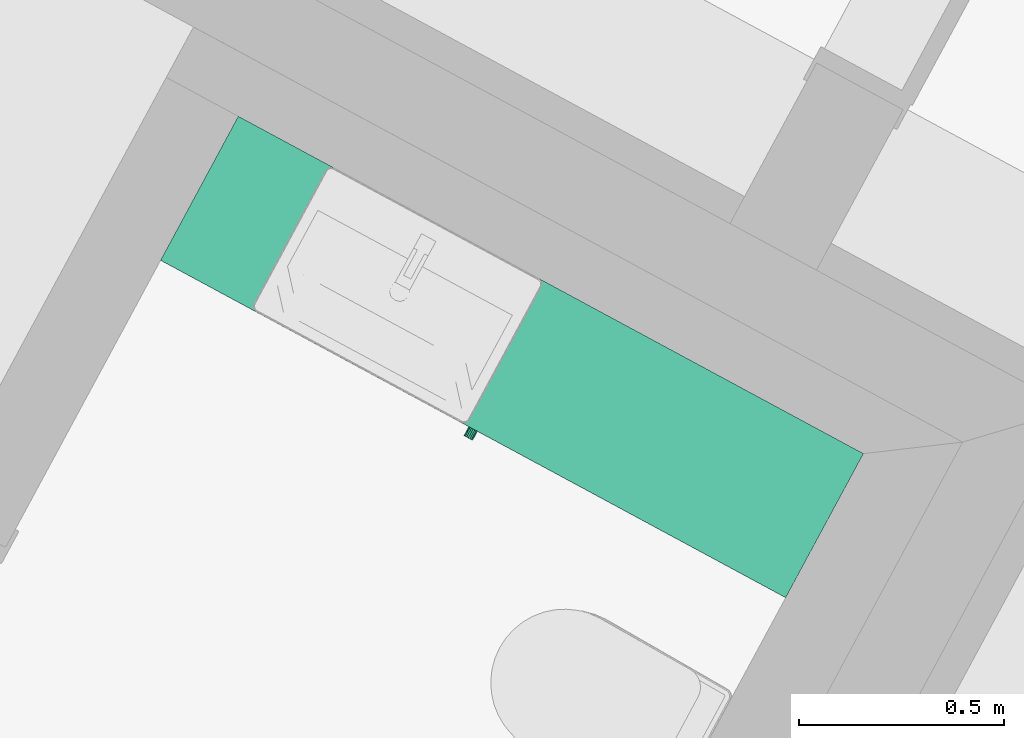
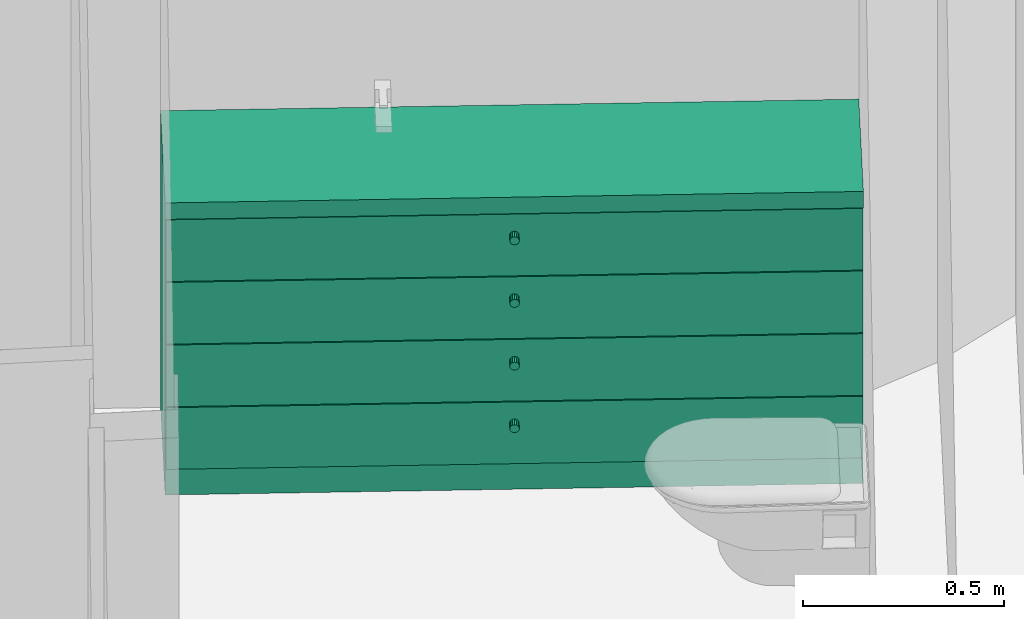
# One storey, part 16 of 36: 1 flow terminal.
"""IFC2X3 building model written with IfcOpenShell, lengths in metres."""

from ifc_helpers import new_model, entity, si_unit, converted_unit, derived_unit, money_unit, direction, frame, origin_with_axes, place, context, subcontext, project, spatial, faceted_brep, type_object, element, save


model = new_model("IFC2X3")

# Units and contexts
model_context = context("Model", 3, precision=1e-05, world=origin_with_axes(), true_north=direction((0.0, 1.0)))
body_context = subcontext(model_context, "Body", "Model", "MODEL_VIEW")
ifc_project = project(units=[si_unit("LENGTHUNIT", "METRE"), si_unit("AREAUNIT", "SQUARE_METRE"), si_unit("VOLUMEUNIT", "CUBIC_METRE"), converted_unit("PLANEANGLEUNIT", "DEGREE", entity("IfcPlaneAngleMeasure", 0.0174532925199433), si_unit("PLANEANGLEUNIT", "RADIAN"), dimensions=[0, 0, 0, 0, 0, 0, 0]), money_unit("EUR"), converted_unit("TIMEUNIT", "Year", entity("IfcTimeMeasure", 31556926.0), si_unit("TIMEUNIT", "SECOND"), dimensions=[0, 0, 1, 0, 0, 0, 0]), si_unit("MASSUNIT", "GRAM", prefix="KILO"), si_unit("THERMODYNAMICTEMPERATUREUNIT", "DEGREE_CELSIUS"), si_unit("LUMINOUSINTENSITYUNIT", "LUMEN"), si_unit("ENERGYUNIT", "JOULE", prefix="MEGA"), derived_unit("THERMALCONDUCTANCEUNIT", [(si_unit("POWERUNIT", "WATT"), 1), (si_unit("LENGTHUNIT", "METRE"), -1), (si_unit("THERMODYNAMICTEMPERATUREUNIT", "KELVIN"), -1)]), derived_unit("SPECIFICHEATCAPACITYUNIT", [(si_unit("ENERGYUNIT", "JOULE"), 1), (si_unit("MASSUNIT", "GRAM", prefix="KILO"), -1), (si_unit("THERMODYNAMICTEMPERATUREUNIT", "KELVIN"), -1)]), derived_unit("MASSDENSITYUNIT", [(si_unit("MASSUNIT", "GRAM", prefix="KILO"), 1), (si_unit("VOLUMEUNIT", "CUBIC_METRE"), -1)])], contexts=[model_context])

# Site, building, storey
site_placement = place(None, frame((-3.949935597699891, 1.740105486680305, 0.0), z_axis=(0.0, 0.0, 1.0), x_axis=(0.8799804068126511, -0.475009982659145, 0.0)))
site = spatial("IfcSite", under=ifc_project, at=site_placement, Name="Gelände", CompositionType="ELEMENT")
building_placement = place(site_placement, origin_with_axes())
building = spatial("IfcBuilding", under=site, at=building_placement, Name="Gebäude", CompositionType="ELEMENT")
storey_placement = place(building_placement, origin_with_axes())
storey = spatial("IfcBuildingStorey", under=building, at=storey_placement, Name="Erdgeschoss", CompositionType="ELEMENT", Elevation=0.0)

# Flow terminal
sanitary_terminal_type = type_object("IfcSanitaryTerminalType", Name="Unterschrank Mehrfach-Schublade 22", PredefinedType="NOTDEFINED")
flow_terminal_placement = place(storey_placement, frame((17.72153792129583, 6.188053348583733, 0.0), z_axis=(0.0, 0.0, 1.0), x_axis=(0.9999999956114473, 9.368620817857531e-05, 0.0)))
element("IfcFlowTerminal", 1, at=flow_terminal_placement, inside=storey, type_object=sanitary_terminal_type, Name="Objekt-0079", context=body_context, shape_type="Brep", body=[
    faceted_brep([(-0.001500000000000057, 0.01999999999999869, 0.0915), (-0.001500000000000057, 0.0, 0.0915), (-1.734509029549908, 0.0, 0.0915), (-1.734509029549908, 0.01999999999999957, 0.0915), (-0.001500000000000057, 0.01999999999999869, 0.2785), (-0.001500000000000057, 0.0, 0.2785), (-1.734509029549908, 0.0, 0.2785), (-1.734509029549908, 0.01999999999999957, 0.2785)], [[[0, 1, 2, 3]], [[4, 5, 1, 0]], [[1, 5, 6, 2]], [[3, 2, 6, 7]], [[0, 3, 7, 4]], [[7, 6, 5, 4]]]),
    faceted_brep([(-0.8634123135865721, 0.0, 0.2039134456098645), (-0.868004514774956, 0.0, 0.203), (-0.8725967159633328, 0.0, 0.2039134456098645), (-0.8764897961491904, 0.0, 0.2065147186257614), (-0.8790910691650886, 0.0, 0.2104077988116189), (-0.8800045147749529, 0.0, 0.215), (-0.8790910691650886, 0.0, 0.2195922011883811), (-0.8764897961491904, 0.0, 0.2234852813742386), (-0.8725967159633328, 0.0, 0.2260865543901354), (-0.868004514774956, 0.0, 0.227), (-0.8634123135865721, 0.0, 0.2260865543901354), (-0.8595192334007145, 0.0, 0.2234852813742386), (-0.8569179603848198, 0.0, 0.2195922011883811), (-0.856004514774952, 0.0, 0.215), (-0.8569179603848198, 0.0, 0.2104077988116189), (-0.8595192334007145, 0.0, 0.2065147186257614), (-0.8634123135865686, -0.02500000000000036, 0.2039134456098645), (-0.8680045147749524, -0.02500000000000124, 0.203), (-0.8725967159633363, -0.02500000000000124, 0.2039134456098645), (-0.876489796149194, -0.02500000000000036, 0.2065147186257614), (-0.8790910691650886, -0.02500000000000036, 0.2104077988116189), (-0.8800045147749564, -0.02500000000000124, 0.215), (-0.8790910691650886, -0.02500000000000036, 0.2195922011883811), (-0.876489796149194, -0.02500000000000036, 0.2234852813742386), (-0.8725967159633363, -0.02500000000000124, 0.2260865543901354), (-0.8680045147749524, -0.02500000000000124, 0.227), (-0.8634123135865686, -0.02500000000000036, 0.2260865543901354), (-0.8595192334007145, -0.02500000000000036, 0.2234852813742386), (-0.8569179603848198, -0.02500000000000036, 0.2195922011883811), (-0.856004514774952, -0.02500000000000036, 0.215), (-0.8569179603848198, -0.02500000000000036, 0.2104077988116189), (-0.8595192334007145, -0.02500000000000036, 0.2065147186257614)], [[[0, 1, 2, 3, 4, 5, 6, 7, 8, 9, 10, 11, 12, 13, 14, 15]], [[0, 16, 17, 1]], [[1, 17, 18, 2]], [[2, 18, 19, 3]], [[3, 19, 20, 4]], [[4, 20, 21, 5]], [[5, 21, 22, 6]], [[6, 22, 23, 7]], [[7, 23, 24, 8]], [[8, 24, 25, 9]], [[9, 25, 26, 10]], [[10, 26, 27, 11]], [[11, 27, 28, 12]], [[12, 28, 29, 13]], [[13, 29, 30, 14]], [[14, 30, 31, 15]], [[15, 31, 16, 0]], [[16, 31, 30, 29, 28, 27, 26, 25, 24, 23, 22, 21, 20, 19, 18, 17]]]),
    faceted_brep([(-0.001500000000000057, 0.01999999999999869, 0.2815), (-0.001500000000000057, 0.0, 0.2815), (-1.734509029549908, 0.0, 0.2815), (-1.734509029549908, 0.01999999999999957, 0.2815), (-0.001500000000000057, 0.01999999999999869, 0.4685), (-0.001500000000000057, 0.0, 0.4685), (-1.734509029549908, 0.0, 0.4685), (-1.734509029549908, 0.01999999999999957, 0.4685)], [[[0, 1, 2, 3]], [[4, 5, 1, 0]], [[1, 5, 6, 2]], [[3, 2, 6, 7]], [[0, 3, 7, 4]], [[7, 6, 5, 4]]]),
    faceted_brep([(-0.8634123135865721, 0.0, 0.3939134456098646), (-0.868004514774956, 0.0, 0.393), (-0.8725967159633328, 0.0, 0.3939134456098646), (-0.8764897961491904, 0.0, 0.3965147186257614), (-0.8790910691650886, 0.0, 0.400407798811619), (-0.8800045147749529, 0.0, 0.405), (-0.8790910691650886, 0.0, 0.4095922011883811), (-0.8764897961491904, 0.0, 0.4134852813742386), (-0.8725967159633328, 0.0, 0.4160865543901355), (-0.868004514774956, 0.0, 0.417), (-0.8634123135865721, 0.0, 0.4160865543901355), (-0.8595192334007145, 0.0, 0.4134852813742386), (-0.8569179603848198, 0.0, 0.4095922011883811), (-0.856004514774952, 0.0, 0.405), (-0.8569179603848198, 0.0, 0.4004077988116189), (-0.8595192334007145, 0.0, 0.3965147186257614), (-0.8634123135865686, -0.02500000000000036, 0.3939134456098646), (-0.8680045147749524, -0.02500000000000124, 0.393), (-0.8725967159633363, -0.02500000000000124, 0.3939134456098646), (-0.876489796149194, -0.02500000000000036, 0.3965147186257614), (-0.8790910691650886, -0.02500000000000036, 0.400407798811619), (-0.8800045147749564, -0.02500000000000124, 0.405), (-0.8790910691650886, -0.02500000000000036, 0.4095922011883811), (-0.876489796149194, -0.02500000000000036, 0.4134852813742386), (-0.8725967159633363, -0.02500000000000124, 0.4160865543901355), (-0.8680045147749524, -0.02500000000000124, 0.417), (-0.8634123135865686, -0.02500000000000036, 0.4160865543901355), (-0.8595192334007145, -0.02500000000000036, 0.4134852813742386), (-0.8569179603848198, -0.02500000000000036, 0.4095922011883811), (-0.856004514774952, -0.02500000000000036, 0.405), (-0.8569179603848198, -0.02500000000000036, 0.4004077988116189), (-0.8595192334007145, -0.02500000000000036, 0.3965147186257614)], [[[0, 1, 2, 3, 4, 5, 6, 7, 8, 9, 10, 11, 12, 13, 14, 15]], [[0, 16, 17, 1]], [[1, 17, 18, 2]], [[2, 18, 19, 3]], [[3, 19, 20, 4]], [[4, 20, 21, 5]], [[5, 21, 22, 6]], [[6, 22, 23, 7]], [[7, 23, 24, 8]], [[8, 24, 25, 9]], [[9, 25, 26, 10]], [[10, 26, 27, 11]], [[11, 27, 28, 12]], [[12, 28, 29, 13]], [[13, 29, 30, 14]], [[14, 30, 31, 15]], [[15, 31, 16, 0]], [[16, 31, 30, 29, 28, 27, 26, 25, 24, 23, 22, 21, 20, 19, 18, 17]]]),
    faceted_brep([(-0.01999999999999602, 0.01999999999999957, 0.28), (-0.01999999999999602, 0.01999999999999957, 0.3), (-1.716009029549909, 0.01999999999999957, 0.3), (-1.716009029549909, 0.01999999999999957, 0.28), (-0.02000000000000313, 0.3800000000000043, 0.28), (-0.02000000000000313, 0.3800000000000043, 0.3), (-1.716009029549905, 0.3800000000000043, 0.3), (-1.716009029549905, 0.3800000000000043, 0.28)], [[[0, 1, 2, 3]], [[4, 5, 1, 0]], [[1, 5, 6, 2]], [[3, 2, 6, 7]], [[0, 3, 7, 4]], [[7, 6, 5, 4]]]),
    faceted_brep([(-0.001500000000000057, 0.01999999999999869, 0.4715), (-0.001500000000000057, 0.0, 0.4715), (-1.734509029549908, 0.0, 0.4715), (-1.734509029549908, 0.01999999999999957, 0.4715), (-0.001500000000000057, 0.01999999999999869, 0.6585), (-0.001500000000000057, 0.0, 0.6585), (-1.734509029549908, 0.0, 0.6585), (-1.734509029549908, 0.01999999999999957, 0.6585)], [[[0, 1, 2, 3]], [[4, 5, 1, 0]], [[1, 5, 6, 2]], [[3, 2, 6, 7]], [[0, 3, 7, 4]], [[7, 6, 5, 4]]]),
    faceted_brep([(-0.8634123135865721, 0.0, 0.5839134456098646), (-0.868004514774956, 0.0, 0.583), (-0.8725967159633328, 0.0, 0.5839134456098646), (-0.8764897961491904, 0.0, 0.5865147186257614), (-0.8790910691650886, 0.0, 0.5904077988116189), (-0.8800045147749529, 0.0, 0.595), (-0.8790910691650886, 0.0, 0.5995922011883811), (-0.8764897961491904, 0.0, 0.6034852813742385), (-0.8725967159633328, 0.0, 0.6060865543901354), (-0.868004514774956, 0.0, 0.607), (-0.8634123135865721, 0.0, 0.6060865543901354), (-0.8595192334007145, 0.0, 0.6034852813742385), (-0.8569179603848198, 0.0, 0.5995922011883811), (-0.856004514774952, 0.0, 0.595), (-0.8569179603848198, 0.0, 0.5904077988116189), (-0.8595192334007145, 0.0, 0.5865147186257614), (-0.8634123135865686, -0.02500000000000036, 0.5839134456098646), (-0.8680045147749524, -0.02500000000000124, 0.583), (-0.8725967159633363, -0.02500000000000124, 0.5839134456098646), (-0.876489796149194, -0.02500000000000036, 0.5865147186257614), (-0.8790910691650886, -0.02500000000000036, 0.5904077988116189), (-0.8800045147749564, -0.02500000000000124, 0.595), (-0.8790910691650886, -0.02500000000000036, 0.5995922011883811), (-0.876489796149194, -0.02500000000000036, 0.6034852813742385), (-0.8725967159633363, -0.02500000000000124, 0.6060865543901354), (-0.8680045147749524, -0.02500000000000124, 0.607), (-0.8634123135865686, -0.02500000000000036, 0.6060865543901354), (-0.8595192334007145, -0.02500000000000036, 0.6034852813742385), (-0.8569179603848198, -0.02500000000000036, 0.5995922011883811), (-0.856004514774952, -0.02500000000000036, 0.595), (-0.8569179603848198, -0.02500000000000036, 0.5904077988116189), (-0.8595192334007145, -0.02500000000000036, 0.5865147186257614)], [[[0, 1, 2, 3, 4, 5, 6, 7, 8, 9, 10, 11, 12, 13, 14, 15]], [[0, 16, 17, 1]], [[1, 17, 18, 2]], [[2, 18, 19, 3]], [[3, 19, 20, 4]], [[4, 20, 21, 5]], [[5, 21, 22, 6]], [[6, 22, 23, 7]], [[7, 23, 24, 8]], [[8, 24, 25, 9]], [[9, 25, 26, 10]], [[10, 26, 27, 11]], [[11, 27, 28, 12]], [[12, 28, 29, 13]], [[13, 29, 30, 14]], [[14, 30, 31, 15]], [[15, 31, 16, 0]], [[16, 31, 30, 29, 28, 27, 26, 25, 24, 23, 22, 21, 20, 19, 18, 17]]]),
    faceted_brep([(-0.01999999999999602, 0.01999999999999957, 0.47), (-0.01999999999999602, 0.01999999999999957, 0.49), (-1.716009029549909, 0.01999999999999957, 0.49), (-1.716009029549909, 0.01999999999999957, 0.47), (-0.02000000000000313, 0.3800000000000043, 0.47), (-0.02000000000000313, 0.3800000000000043, 0.49), (-1.716009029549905, 0.3800000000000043, 0.49), (-1.716009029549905, 0.3800000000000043, 0.47)], [[[0, 1, 2, 3]], [[4, 5, 1, 0]], [[1, 5, 6, 2]], [[3, 2, 6, 7]], [[0, 3, 7, 4]], [[7, 6, 5, 4]]]),
    faceted_brep([(-0.001500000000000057, 0.01999999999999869, 0.6615), (-0.001500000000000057, 0.0, 0.6615), (-1.734509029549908, 0.0, 0.6615), (-1.734509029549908, 0.01999999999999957, 0.6615), (-0.001500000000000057, 0.01999999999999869, 0.8485), (-0.001500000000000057, 0.0, 0.8485), (-1.734509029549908, 0.0, 0.8485), (-1.734509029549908, 0.01999999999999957, 0.8485)], [[[0, 1, 2, 3]], [[4, 5, 1, 0]], [[1, 5, 6, 2]], [[3, 2, 6, 7]], [[0, 3, 7, 4]], [[7, 6, 5, 4]]]),
    faceted_brep([(-0.8634123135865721, 0.0, 0.7739134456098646), (-0.868004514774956, 0.0, 0.773), (-0.8725967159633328, 0.0, 0.7739134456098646), (-0.8764897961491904, 0.0, 0.7765147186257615), (-0.8790910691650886, 0.0, 0.7804077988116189), (-0.8800045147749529, 0.0, 0.785), (-0.8790910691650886, 0.0, 0.7895922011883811), (-0.8764897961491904, 0.0, 0.7934852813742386), (-0.8725967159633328, 0.0, 0.7960865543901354), (-0.868004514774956, 0.0, 0.797), (-0.8634123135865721, 0.0, 0.7960865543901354), (-0.8595192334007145, 0.0, 0.7934852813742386), (-0.8569179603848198, 0.0, 0.7895922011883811), (-0.856004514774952, 0.0, 0.785), (-0.8569179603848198, 0.0, 0.7804077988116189), (-0.8595192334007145, 0.0, 0.7765147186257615), (-0.8634123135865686, -0.02500000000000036, 0.7739134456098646), (-0.8680045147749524, -0.02500000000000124, 0.773), (-0.8725967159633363, -0.02500000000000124, 0.7739134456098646), (-0.876489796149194, -0.02500000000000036, 0.7765147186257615), (-0.8790910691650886, -0.02500000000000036, 0.7804077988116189), (-0.8800045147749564, -0.02500000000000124, 0.785), (-0.8790910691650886, -0.02500000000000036, 0.7895922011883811), (-0.876489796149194, -0.02500000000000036, 0.7934852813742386), (-0.8725967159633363, -0.02500000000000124, 0.7960865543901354), (-0.8680045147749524, -0.02500000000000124, 0.797), (-0.8634123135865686, -0.02500000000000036, 0.7960865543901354), (-0.8595192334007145, -0.02500000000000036, 0.7934852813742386), (-0.8569179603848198, -0.02500000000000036, 0.7895922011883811), (-0.856004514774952, -0.02500000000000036, 0.785), (-0.8569179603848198, -0.02500000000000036, 0.7804077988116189), (-0.8595192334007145, -0.02500000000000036, 0.7765147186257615)], [[[0, 1, 2, 3, 4, 5, 6, 7, 8, 9, 10, 11, 12, 13, 14, 15]], [[0, 16, 17, 1]], [[1, 17, 18, 2]], [[2, 18, 19, 3]], [[3, 19, 20, 4]], [[4, 20, 21, 5]], [[5, 21, 22, 6]], [[6, 22, 23, 7]], [[7, 23, 24, 8]], [[8, 24, 25, 9]], [[9, 25, 26, 10]], [[10, 26, 27, 11]], [[11, 27, 28, 12]], [[12, 28, 29, 13]], [[13, 29, 30, 14]], [[14, 30, 31, 15]], [[15, 31, 16, 0]], [[16, 31, 30, 29, 28, 27, 26, 25, 24, 23, 22, 21, 20, 19, 18, 17]]]),
    faceted_brep([(-0.01999999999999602, 0.01999999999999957, 0.66), (-0.01999999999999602, 0.01999999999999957, 0.68), (-1.716009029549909, 0.01999999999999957, 0.68), (-1.716009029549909, 0.01999999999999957, 0.66), (-0.02000000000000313, 0.3800000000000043, 0.66), (-0.02000000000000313, 0.3800000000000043, 0.68), (-1.716009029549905, 0.3800000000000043, 0.68), (-1.716009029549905, 0.3800000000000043, 0.66)], [[[0, 1, 2, 3]], [[4, 5, 1, 0]], [[1, 5, 6, 2]], [[3, 2, 6, 7]], [[0, 3, 7, 4]], [[7, 6, 5, 4]]]),
    faceted_brep([(0.0, 0.01999999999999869, 0.0), (0.0, 0.01999999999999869, 0.09), (-1.73600902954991, 0.01999999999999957, 0.09), (-1.73600902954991, 0.01999999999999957, 0.0), (0.0, 0.400000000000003, 0.0), (0.0, 0.400000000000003, 0.09), (-1.736009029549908, 0.4000000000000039, 0.09), (-1.736009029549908, 0.4000000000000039, 0.0)], [[[0, 1, 2, 3]], [[4, 5, 1, 0]], [[1, 5, 6, 2]], [[3, 2, 6, 7]], [[0, 3, 7, 4]], [[7, 6, 5, 4]]]),
    faceted_brep([(0.0, 0.01999999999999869, 0.83), (0.0, 0.01999999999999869, 0.85), (-0.01999999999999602, 0.01999999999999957, 0.85), (-0.01999999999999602, 0.01999999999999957, 0.83), (0.0, 0.400000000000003, 0.83), (0.0, 0.400000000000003, 0.85), (-0.01999999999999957, 0.400000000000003, 0.85), (-1.716009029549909, 0.4000000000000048, 0.85), (-1.736009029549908, 0.4000000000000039, 0.85), (-1.73600902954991, 0.01999999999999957, 0.85), (-1.716009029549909, 0.01999999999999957, 0.85), (-1.716009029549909, 0.01999999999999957, 0.83), (-1.73600902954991, 0.01999999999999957, 0.83), (-1.736009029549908, 0.4000000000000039, 0.83), (-1.716009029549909, 0.4000000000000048, 0.83), (-0.01999999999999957, 0.400000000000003, 0.83)], [[[0, 1, 2, 3]], [[4, 5, 1, 0]], [[1, 5, 6, 7, 8, 9, 10, 2]], [[3, 2, 10, 11]], [[0, 3, 11, 12, 13, 14, 15, 4]], [[15, 6, 5, 4]], [[14, 7, 6, 15]], [[13, 8, 7, 14]], [[12, 9, 8, 13]], [[11, 10, 9, 12]]]),
    faceted_brep([(0.0, 0.01999999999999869, 0.09), (0.0, 0.01999999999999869, 0.11), (-0.01999999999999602, 0.01999999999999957, 0.11), (-0.01999999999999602, 0.01999999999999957, 0.09), (0.0, 0.400000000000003, 0.09), (0.0, 0.400000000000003, 0.11), (-0.01999999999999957, 0.400000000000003, 0.11), (-1.716009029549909, 0.4000000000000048, 0.11), (-1.736009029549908, 0.4000000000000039, 0.11), (-1.73600902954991, 0.01999999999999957, 0.11), (-1.716009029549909, 0.01999999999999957, 0.11), (-1.716009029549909, 0.01999999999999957, 0.09), (-1.73600902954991, 0.01999999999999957, 0.09), (-1.736009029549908, 0.4000000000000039, 0.09), (-1.716009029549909, 0.4000000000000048, 0.09), (-0.01999999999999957, 0.400000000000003, 0.09)], [[[0, 1, 2, 3]], [[4, 5, 1, 0]], [[1, 5, 6, 7, 8, 9, 10, 2]], [[3, 2, 10, 11]], [[0, 3, 11, 12, 13, 14, 15, 4]], [[15, 6, 5, 4]], [[14, 7, 6, 15]], [[13, 8, 7, 14]], [[12, 9, 8, 13]], [[11, 10, 9, 12]]]),
    faceted_brep([(0.0, 0.01999999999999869, 0.11), (0.0, 0.01999999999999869, 0.83), (-0.01999999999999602, 0.01999999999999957, 0.83), (-0.01999999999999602, 0.01999999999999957, 0.11), (0.0, 0.400000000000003, 0.11), (0.0, 0.400000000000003, 0.83), (-1.736009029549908, 0.4000000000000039, 0.83), (-1.73600902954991, 0.01999999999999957, 0.83), (-1.716009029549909, 0.01999999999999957, 0.83), (-1.716009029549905, 0.3800000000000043, 0.83), (-0.02000000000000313, 0.3800000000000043, 0.83), (-0.02000000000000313, 0.3800000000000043, 0.11), (-1.716009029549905, 0.3800000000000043, 0.11), (-1.716009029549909, 0.01999999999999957, 0.11), (-1.73600902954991, 0.01999999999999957, 0.11), (-1.736009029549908, 0.4000000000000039, 0.11)], [[[0, 1, 2, 3]], [[4, 5, 1, 0]], [[1, 5, 6, 7, 8, 9, 10, 2]], [[3, 2, 10, 11]], [[0, 3, 11, 12, 13, 14, 15, 4]], [[15, 6, 5, 4]], [[14, 7, 6, 15]], [[13, 8, 7, 14]], [[12, 9, 8, 13]], [[11, 10, 9, 12]]]),
    faceted_brep([(0.0, 0.0, 0.85), (0.0, 0.0, 0.9), (-1.73600902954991, 0.0, 0.9), (-1.73600902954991, 0.0, 0.85), (0.0, 0.400000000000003, 0.85), (0.0, 0.400000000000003, 0.9), (-1.736009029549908, 0.4000000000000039, 0.9), (-1.736009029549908, 0.4000000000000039, 0.85)], [[[0, 1, 2, 3]], [[4, 5, 1, 0]], [[1, 5, 6, 2]], [[3, 2, 6, 7]], [[0, 3, 7, 4]], [[7, 6, 5, 4]]]),
])

save(model, "model.ifc")
